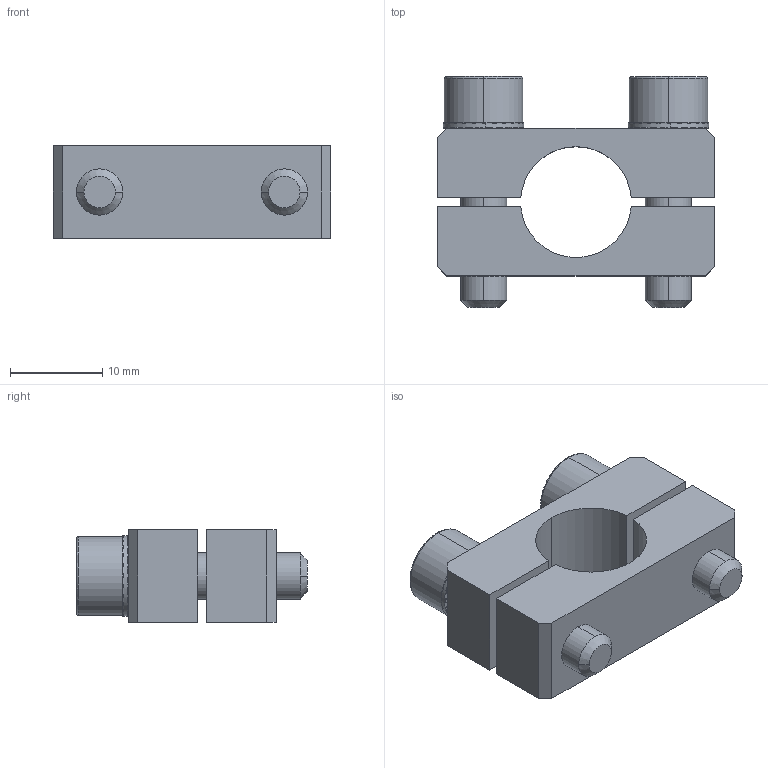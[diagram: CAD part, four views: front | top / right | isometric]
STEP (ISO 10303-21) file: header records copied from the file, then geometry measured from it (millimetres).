
FILE_DESCRIPTION (( 'STEP AP214' ), '1' );
FILE_NAME ('SMBK1-12T10T.STEP', '2022-12-30T03:33:38', ( 'Windows User' ), ( 'P R C' ), 'SwSTEP 2.0', 'SolidWorks 2018', '' );
FILE_SCHEMA (( 'AUTOMOTIVE_DESIGN' ));
Length unit declared in the file: millimetre
Products named in the file (1): SMBK1-12T10T
Bounding box: 30 x 25 x 10 mm (x, y, z)
Volume: 4162.3 mm3; surface area: 4028.2 mm2
Topology: 6 solids, 6 shells, 457 faces, 1315 edges, 870 vertices
Faces by surface type: plane 422, cylinder 27, cone 4, bspline 4
Entity records: 20421 total; most frequent: CARTESIAN_POINT 2913, DIRECTION 2645, ORIENTED_EDGE 2630, EDGE_CURVE 1315, AXIS2_PLACEMENT_3D 884, VECTOR 877, LINE 877, VERTEX_POINT 870
